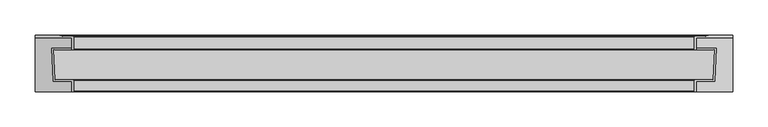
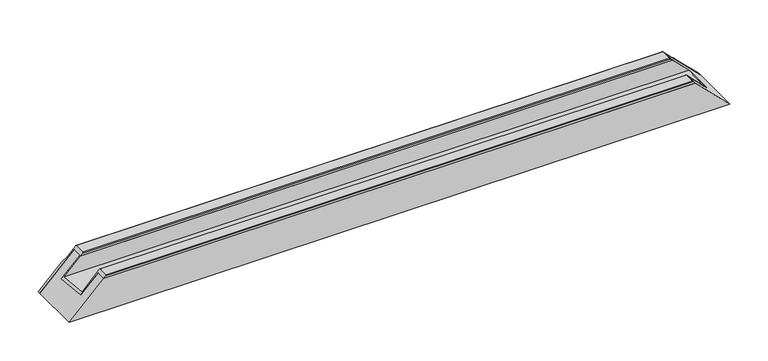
"""IFC4 building model written with IfcOpenShell, lengths in millimetres: proxy geometry, Weiku - Montante - Caixilho duplo 02.2.01.002 de canto : Weiku - Montante - Caixilho duplo 02.2.01.002 de canto."""

from ifc_helpers import new_model, si_unit, frame, origin, place, context, project, spatial, polyline, ellipse_curve, faceted_brep, source, transform, mapped, element, save
from ifc_brep_helpers import plane_surface, cylinder_surface, revolved_surface, advanced_brep


def generic_models_f8ddf4a1(model_context):
    return source(origin(), model_context, "Body", "SolidModel", [
        advanced_brep(
        [(-442.5, 60.0, 55.0), (-445.5, 60.0, 52.0), (445.5, 60.0, 52.0), (442.5, 60.0, 55.0), (-441.5, 61.0, 56.0), (441.5, 61.0, 56.0), (-441.5, 78.0, 56.0), (441.5, 78.0, 56.0), (-442.5, 79.0, 55.0), (442.5, 79.0, 55.0), (-456.5, 79.0, 41.0), (456.5, 79.0, 41.0), (-459.5, 80.0, 38.0), (459.5, 80.0, 38.0), (-462.5, 81.0, 35.0), (462.5, 81.0, 35.0), (497.5, 81.0, 0.0), (-497.5, 81.0, 0.0), (497.5, 77.0, 0.0), (-497.5, 77.0, 0.0), (445.5, 77.0, 52.0), (-445.5, 77.0, 52.0)],
        [
            (0, 1),
            (1, 2),
            (2, 3),
            (3, 0),
            (4, 0, ellipse_curve(frame((-442.5, 61.0, 55.0), z_axis=(0.707106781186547, 0.0, -0.7071067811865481), x_axis=(-0.7071067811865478, 0.0, -0.707106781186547)), 1.4142136, 1.0)),
            (3, 5, ellipse_curve(frame((442.5, 61.0, 55.0), z_axis=(-0.7071067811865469, 0.0, -0.7071067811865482), x_axis=(-0.707106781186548, 0.0, 0.7071067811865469)), 1.4142136, 1.0)),
            (5, 4),
            (6, 4),
            (5, 7),
            (7, 6),
            (8, 6, ellipse_curve(frame((-442.5, 78.0, 55.0), z_axis=(0.707106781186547, 0.0, -0.7071067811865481), x_axis=(-0.7071067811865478, 0.0, -0.707106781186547)), 1.4142136, 1.0)),
            (7, 9, ellipse_curve(frame((442.5, 78.0, 55.0), z_axis=(-0.7071067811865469, 0.0, -0.7071067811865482), x_axis=(-0.707106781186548, 0.0, 0.7071067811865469)), 1.4142136, 1.0)),
            (9, 8),
            (10, 8),
            (9, 11),
            (11, 10),
            (12, 10, ellipse_curve(frame((-456.5, 84.0, 41.0), z_axis=(-0.707106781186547, 0.0, 0.7071067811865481), x_axis=(0.7071067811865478, 0.0, 0.707106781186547)), 7.0710678, 5.0)),
            (11, 13, ellipse_curve(frame((456.5, 84.0, 41.0), z_axis=(0.7071067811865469, 0.0, 0.7071067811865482), x_axis=(0.707106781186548, 0.0, -0.7071067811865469)), 7.0710678, 5.0)),
            (13, 12),
            (14, 12, ellipse_curve(frame((-462.5, 76.0, 35.0), z_axis=(0.707106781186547, 0.0, -0.7071067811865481), x_axis=(-0.7071067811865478, 0.0, -0.707106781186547)), 7.0710678, 5.0)),
            (13, 15, ellipse_curve(frame((462.5, 76.0, 35.0), z_axis=(-0.7071067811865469, 0.0, -0.7071067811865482), x_axis=(-0.707106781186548, 0.0, 0.7071067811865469)), 7.0710678, 5.0)),
            (15, 14),
            (16, 17),
            (17, 14),
            (15, 16),
            (16, 18),
            (18, 19),
            (19, 17),
            (18, 20),
            (20, 21),
            (21, 19),
            (1, 21),
            (20, 2),
        ],
        [
            plane_surface(frame((-497.5, 60.0, 52.0), z_axis=(0.0, -1.0, 0.0), x_axis=(1.0, 0.0, 0.0))),
            cylinder_surface(frame((-497.5, 61.0, 55.0), z_axis=(-1.0, 0.0, 0.0), x_axis=(0.0, 1.0, 0.0)), 1.0),
            plane_surface(frame((-497.5, 61.0, 56.0), z_axis=(0.0, 0.0, 1.0), x_axis=(1.0, 0.0, 0.0))),
            cylinder_surface(frame((-497.5, 78.0, 55.0), z_axis=(-1.0, 0.0, 0.0), x_axis=(0.0, 1.0, 0.0)), 1.0),
            plane_surface(frame((-497.5, 79.0, 55.0), z_axis=(0.0, 1.0, 0.0), x_axis=(1.0, 0.0, 0.0))),
            revolved_surface(polyline([(461.4999999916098, 89.0, 41.0), (-461.49999999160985, 89.0, 41.0)]), (-497.5, 84.0, 41.0), (1.0, 0.0, 0.0)),
            cylinder_surface(frame((-497.5, 76.0, 35.0), z_axis=(-1.0, 0.0, 0.0), x_axis=(0.0, 1.0, 0.0)), 5.0),
            plane_surface(frame((-497.5, 81.0, 35.0), z_axis=(0.0, 1.0, 0.0), x_axis=(1.0, 0.0, 0.0))),
            plane_surface(frame((-497.5, 81.0, 0.0), z_axis=(0.0, 0.0, -1.0), x_axis=(1.0, 0.0, 0.0))),
            plane_surface(frame((-497.5, 77.0, 0.0), z_axis=(0.0, -1.0, 0.0), x_axis=(1.0, 0.0, 0.0))),
            plane_surface(frame((-497.5, 77.0, 52.0), z_axis=(0.0, 0.0, -1.0), x_axis=(1.0, 0.0, 0.0))),
            plane_surface(frame((-497.5, 0.0, 0.0), z_axis=(-0.707106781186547, 0.0, 0.7071067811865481), x_axis=(0.0, 1.0, 0.0))),
            plane_surface(frame((427.5, 0.0, 70.0), z_axis=(0.7071067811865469, 0.0, 0.7071067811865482), x_axis=(0.0, 1.0, 0.0))),
        ],
        [
            (0, [[1, 2, 3, 4]]),
            (1, [[5, -4, 6, 7]]),
            (2, [[8, -7, 9, 10]]),
            (3, [[11, -10, 12, 13]]),
            (4, [[14, -13, 15, 16]]),
            (5, [[17, -16, 18, 19]]),
            (6, [[20, -19, 21, 22]]),
            (7, [[23, 24, -22, 25]]),
            (8, [[-23, 26, 27, 28]]),
            (9, [[-27, 29, 30, 31]]),
            (10, [[32, -30, 33, -2]]),
            (11, [[-1, -5, -8, -11, -14, -17, -20, -24, -28, -31, -32]]),
            (12, [[-3, -33, -29, -26, -25, -21, -18, -15, -12, -9, -6]]),
        ],
    ),
        advanced_brep(
        [(-445.5, 0.0, 52.0), (-445.5, 15.0, 52.0), (445.5, 15.0, 52.0), (445.5, 0.0, 52.0), (-442.5, 0.0, 55.0), (442.5, 0.0, 55.0), (-441.5, 1.0, 56.0), (441.5, 1.0, 56.0), (-441.5, 16.0, 56.0), (441.5, 16.0, 56.0), (-442.5, 17.0, 55.0), (442.5, 17.0, 55.0), (-468.591241, 17.0, 28.908759), (468.591241, 17.0, 28.908759), (-470.6250261, 60.0, 26.8749739), (470.6250261, 60.0, 26.8749739), (-445.5, 60.0, 52.0), (445.5, 60.0, 52.0), (-445.5, 62.0, 52.0), (445.5, 62.0, 52.0), (-473.7229744, 62.0, 23.7770256), (473.7229744, 62.0, 23.7770256), (-471.5, 15.0, 26.0), (471.5, 15.0, 26.0)],
        [
            (0, 1),
            (1, 2),
            (2, 3),
            (3, 0),
            (4, 0),
            (3, 5),
            (5, 4),
            (6, 4, ellipse_curve(frame((-442.5, 1.0, 55.0), z_axis=(0.707106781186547, 0.0, -0.7071067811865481), x_axis=(-0.7071067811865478, 0.0, -0.707106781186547)), 1.4142136, 1.0)),
            (5, 7, ellipse_curve(frame((442.5, 1.0, 55.0), z_axis=(-0.7071067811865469, 0.0, -0.7071067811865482), x_axis=(-0.707106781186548, 0.0, 0.7071067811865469)), 1.4142136, 1.0)),
            (7, 6),
            (8, 6),
            (7, 9),
            (9, 8),
            (10, 8, ellipse_curve(frame((-442.5, 16.0, 55.0), z_axis=(0.707106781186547, 0.0, -0.7071067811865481), x_axis=(-0.7071067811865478, 0.0, -0.707106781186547)), 1.4142136, 1.0)),
            (9, 11, ellipse_curve(frame((442.5, 16.0, 55.0), z_axis=(-0.7071067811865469, 0.0, -0.7071067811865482), x_axis=(-0.707106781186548, 0.0, 0.7071067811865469)), 1.4142136, 1.0)),
            (11, 10),
            (12, 10),
            (11, 13),
            (13, 12),
            (14, 12),
            (13, 15),
            (15, 14),
            (16, 14),
            (15, 17),
            (17, 16),
            (18, 16),
            (17, 19),
            (19, 18),
            (20, 18),
            (19, 21),
            (21, 20),
            (22, 20),
            (21, 23),
            (23, 22),
            (1, 22),
            (23, 2),
        ],
        [
            plane_surface(frame((-497.5, 15.0, 52.0), z_axis=(0.0, 0.0, -1.0), x_axis=(1.0, 0.0, 0.0))),
            plane_surface(frame((-497.5, 0.0, 52.0), z_axis=(0.0, -1.0, 0.0), x_axis=(1.0, 0.0, 0.0))),
            cylinder_surface(frame((-497.5, 1.0, 55.0), z_axis=(-1.0, 0.0, 0.0), x_axis=(0.0, 1.0, 0.0)), 1.0),
            plane_surface(frame((-497.5, 1.0, 56.0), z_axis=(0.0, 0.0, 1.0), x_axis=(1.0, 0.0, 0.0))),
            cylinder_surface(frame((-497.5, 16.0, 55.0), z_axis=(-1.0, 0.0, 0.0), x_axis=(0.0, 1.0, 0.0)), 1.0),
            plane_surface(frame((-497.5, 17.0, 55.0), z_axis=(0.0, 1.0, 0.0), x_axis=(1.0, 0.0, 0.0))),
            plane_surface(frame((-497.5, 17.0, 28.908759), z_axis=(0.0, 0.0472445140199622, 0.9988833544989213), x_axis=(1.0, 0.0, 0.0))),
            plane_surface(frame((-497.5, 60.0, 26.8749739), z_axis=(0.0, -1.0, 0.0), x_axis=(1.0, 0.0, 0.0))),
            plane_surface(frame((-497.5, 60.0, 52.0), z_axis=(0.0, 0.0, 1.0), x_axis=(1.0, 0.0, 0.0))),
            plane_surface(frame((-497.5, 62.0, 52.0), z_axis=(0.0, 1.0, 0.0), x_axis=(1.0, 0.0, 0.0))),
            plane_surface(frame((-497.5, 62.0, 23.7770256), z_axis=(0.0, -0.047244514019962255, -0.9988833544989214), x_axis=(1.0, 0.0, 0.0))),
            plane_surface(frame((-497.5, 15.0, 26.0), z_axis=(0.0, -1.0, 0.0), x_axis=(1.0, 0.0, 0.0))),
            plane_surface(frame((-497.5, 0.0, 0.0), z_axis=(-0.707106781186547, 0.0, 0.7071067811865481), x_axis=(0.0, 1.0, 0.0))),
            plane_surface(frame((427.5, 0.0, 70.0), z_axis=(0.7071067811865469, 0.0, 0.7071067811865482), x_axis=(0.0, 1.0, 0.0))),
        ],
        [
            (0, [[1, 2, 3, 4]]),
            (1, [[5, -4, 6, 7]]),
            (2, [[8, -7, 9, 10]]),
            (3, [[11, -10, 12, 13]]),
            (4, [[14, -13, 15, 16]]),
            (5, [[17, -16, 18, 19]]),
            (6, [[20, -19, 21, 22]]),
            (7, [[23, -22, 24, 25]]),
            (8, [[26, -25, 27, 28]]),
            (9, [[29, -28, 30, 31]]),
            (10, [[32, -31, 33, 34]]),
            (11, [[35, -34, 36, -2]]),
            (12, [[-1, -5, -8, -11, -14, -17, -20, -23, -26, -29, -32, -35]]),
            (13, [[-3, -36, -33, -30, -27, -24, -21, -18, -15, -12, -9, -6]]),
        ],
    ),
        faceted_brep([(-471.5, 15.0, 26.0), (-445.5, 15.0, 52.0), (445.5, 15.0, 52.0), (471.5, 15.0, 26.0), (-473.7229744, 62.0, 23.7770256), (473.7229744, 62.0, 23.7770256), (-445.5, 62.0, 52.0), (445.5, 62.0, 52.0), (-445.5, 77.0, 52.0), (445.5, 77.0, 52.0), (497.5, 77.0, 0.0), (-497.5, 77.0, 0.0), (497.5, 0.0, 0.0), (-497.5, 0.0, 0.0), (445.5, 0.0, 52.0), (-445.5, 0.0, 52.0)], [[[0, 1, 2, 3]], [[4, 0, 3, 5]], [[6, 4, 5, 7]], [[8, 6, 7, 9]], [[10, 11, 8, 9]], [[11, 10, 12, 13]], [[13, 12, 14, 15]], [[1, 15, 14, 2]], [[1, 0, 4, 6, 8, 11, 13, 15]], [[3, 2, 14, 12, 10, 9, 7, 5]]]),
    ])


if __name__ == "__main__":
    model = new_model("IFC4")
    model_context = context("Model", 3, world=origin())
    ifc_project = project(units=[si_unit("LENGTHUNIT", "METRE", prefix="MILLI")], contexts=[model_context])
    site = spatial("IfcSite", under=ifc_project)
    building = spatial("IfcBuilding", under=site)
    placement = place(None, origin())
    generic_models_shape = generic_models_f8ddf4a1(model_context)
    element("IfcBuildingElementProxy", 1, Name="Weiku - Montante - Caixilho duplo 02.2.01.002 de canto : Weiku - Montante - Caixilho duplo 02.2.01.002 de canto", ObjectType="Weiku - Montante - Caixilho duplo 02.2.01.002 de canto : Weiku - Montante - Caixilho duplo 02.2.01.002 de canto", at=placement, inside=building, context=model_context, shape_type="MappedRepresentation", body=[
        mapped(generic_models_shape, transform((0.0, 0.0, 0.0), x_axis=(1.0, 0.0, 0.0), y_axis=(0.0, 1.0, 0.0), z_axis=(0.0, 0.0, 1.0))),
    ])
    save(model, "model.ifc")
